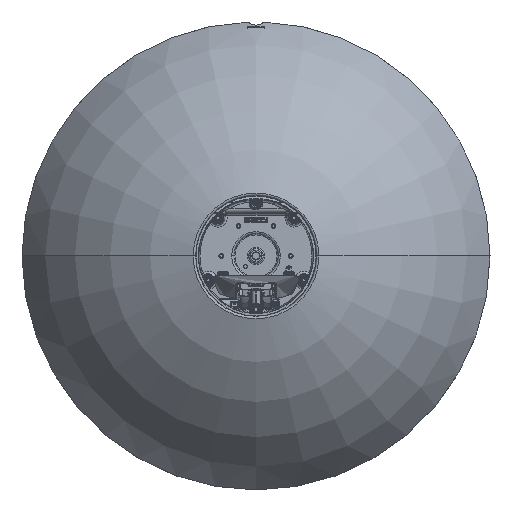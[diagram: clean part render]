
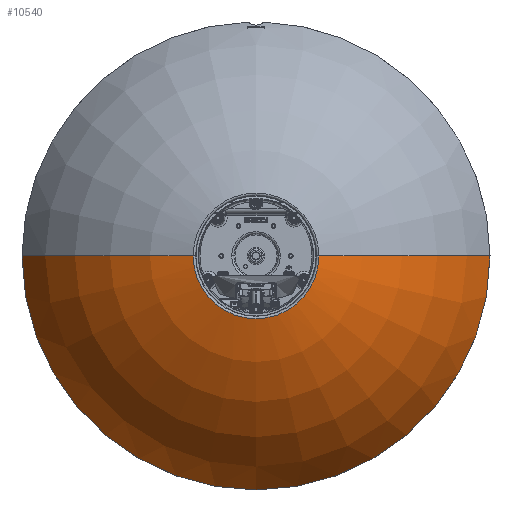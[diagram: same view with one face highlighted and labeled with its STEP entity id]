
A CAD part, front view. The second image highlights one B-rep face of the part: STEP entity #10540.
In plain terms, the highlighted toroidal (fillet/blend) face has major radius 13.536 mm and minor radius 454 mm.
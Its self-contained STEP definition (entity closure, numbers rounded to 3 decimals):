
#683 = AXIS2_PLACEMENT_3D ( 'NONE', #105484, #95381, #37235 ) ;
#2514 = DIRECTION ( 'NONE',  ( 1., 0., 0. ) ) ;
#7386 = AXIS2_PLACEMENT_3D ( 'NONE', #75215, #14055, #63596 ) ;
#9823 = AXIS2_PLACEMENT_3D ( 'NONE', #137326, #78574, #31278 ) ;
#10540 = ADVANCED_FACE ( 'NONE', ( #81460 ), #35379, .T. ) ;
#12279 = CIRCLE ( 'NONE', #7386, 106.866 ) ;
#13998 = VERTEX_POINT ( 'NONE', #79614 ) ;
#14055 = DIRECTION ( 'NONE',  ( 0., 1., 0. ) ) ;
#14412 = EDGE_CURVE ( 'NONE', #13998, #127885, #92309, .T. ) ;
#25811 = DIRECTION ( 'NONE',  ( 0., 0., 1. ) ) ;
#31278 = DIRECTION ( 'NONE',  ( 1., 0., 0. ) ) ;
#35379 = TOROIDAL_SURFACE ( 'NONE', #683, -13.536, 454. ) ;
#37235 = DIRECTION ( 'NONE',  ( -1., 0., 0. ) ) ;
#37422 = AXIS2_PLACEMENT_3D ( 'NONE', #131864, #25811, #2514 ) ;
#44836 = CIRCLE ( 'NONE', #37422, 454. ) ;
#47045 = CIRCLE ( 'NONE', #9823, 397.68 ) ;
#50424 = EDGE_CURVE ( 'NONE', #127885, #134313, #12279, .T. ) ;
#58274 = ORIENTED_EDGE ( 'NONE', *, *, #14412, .T. ) ;
#63596 = DIRECTION ( 'NONE',  ( 1., 0., 0. ) ) ;
#65121 = CARTESIAN_POINT ( 'NONE',  ( -218.953, 29.438, 40.037 ) ) ;
#67980 = EDGE_CURVE ( 'NONE', #136162, #13998, #47045, .T. ) ;
#75215 = CARTESIAN_POINT ( 'NONE',  ( -112.087, 29.438, 40.037 ) ) ;
#75291 = ORIENTED_EDGE ( 'NONE', *, *, #50424, .T. ) ;
#77419 = CARTESIAN_POINT ( 'NONE',  ( -509.767, 274.781, 40.037 ) ) ;
#78574 = DIRECTION ( 'NONE',  ( 0., -1., 0. ) ) ;
#79614 = CARTESIAN_POINT ( 'NONE',  ( 285.593, 274.781, 40.037 ) ) ;
#81460 = FACE_OUTER_BOUND ( 'NONE', #99161, .T. ) ;
#91370 = CARTESIAN_POINT ( 'NONE',  ( -5.221, 29.438, 40.037 ) ) ;
#92309 = CIRCLE ( 'NONE', #102259, 454. ) ;
#95381 = DIRECTION ( 'NONE',  ( 0., -1., 0. ) ) ;
#99161 = EDGE_LOOP ( 'NONE', ( #152534, #58274, #75291, #122954 ) ) ;
#102259 = AXIS2_PLACEMENT_3D ( 'NONE', #121092, #121836, #147351 ) ;
#105484 = CARTESIAN_POINT ( 'NONE',  ( -112.087, 467.182, 40.037 ) ) ;
#115075 = EDGE_CURVE ( 'NONE', #136162, #134313, #44836, .T. ) ;
#121092 = CARTESIAN_POINT ( 'NONE',  ( -125.623, 467.182, 40.037 ) ) ;
#121836 = DIRECTION ( 'NONE',  ( 0., 0., -1. ) ) ;
#122954 = ORIENTED_EDGE ( 'NONE', *, *, #115075, .F. ) ;
#127885 = VERTEX_POINT ( 'NONE', #91370 ) ;
#131864 = CARTESIAN_POINT ( 'NONE',  ( -98.551, 467.182, 40.037 ) ) ;
#134313 = VERTEX_POINT ( 'NONE', #65121 ) ;
#136162 = VERTEX_POINT ( 'NONE', #77419 ) ;
#137326 = CARTESIAN_POINT ( 'NONE',  ( -112.087, 274.781, 40.037 ) ) ;
#147351 = DIRECTION ( 'NONE',  ( -1., 0., 0. ) ) ;
#152534 = ORIENTED_EDGE ( 'NONE', *, *, #67980, .T. ) ;
